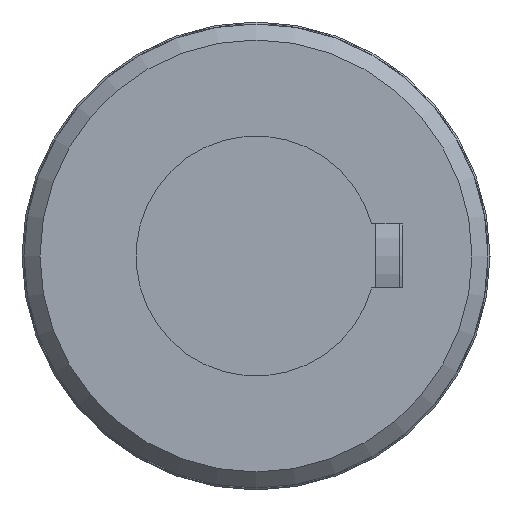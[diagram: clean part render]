
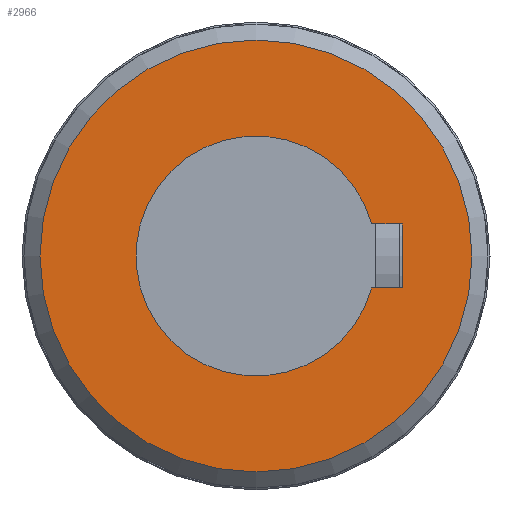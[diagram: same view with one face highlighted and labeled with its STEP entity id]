
A CAD part, left-side view. The second image highlights one B-rep face of the part: STEP entity #2966.
In plain terms, the highlighted planar face has unit normal (-1, 0, 0) as drawn and (0, -1, 0) by its records, which use the part's own axes.
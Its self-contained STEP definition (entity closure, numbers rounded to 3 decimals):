
#178=FACE_BOUND('',#650,.T.);
#277=PLANE('',#3269);
#436=FACE_OUTER_BOUND('',#649,.T.);
#649=EDGE_LOOP('',(#2625));
#650=EDGE_LOOP('',(#2626,#2627,#2628,#2629));
#856=LINE('',#5394,#1041);
#860=LINE('',#5417,#1045);
#862=LINE('',#5425,#1047);
#1041=VECTOR('',#3985,3.843);
#1045=VECTOR('',#3997,8.);
#1047=VECTOR('',#4001,3.843);
#1187=CIRCLE('',#3256,15.);
#1193=CIRCLE('',#3267,27.);
#1448=VERTEX_POINT('',#5391);
#1449=VERTEX_POINT('',#5393);
#1452=VERTEX_POINT('',#5403);
#1454=VERTEX_POINT('',#5415);
#1463=VERTEX_POINT('',#5504);
#1840=EDGE_CURVE('',#1449,#1448,#856,.T.);
#1844=EDGE_CURVE('',#1452,#1449,#1187,.T.);
#1848=EDGE_CURVE('',#1448,#1454,#860,.T.);
#1851=EDGE_CURVE('',#1454,#1452,#862,.T.);
#1861=EDGE_CURVE('',#1463,#1463,#1193,.T.);
#2625=ORIENTED_EDGE('',*,*,#1861,.F.);
#2626=ORIENTED_EDGE('',*,*,#1840,.T.);
#2627=ORIENTED_EDGE('',*,*,#1848,.T.);
#2628=ORIENTED_EDGE('',*,*,#1851,.T.);
#2629=ORIENTED_EDGE('',*,*,#1844,.T.);
#2966=ADVANCED_FACE('',(#436,#178),#277,.F.);
#3256=AXIS2_PLACEMENT_3D('',#5404,#3991,#3992);
#3267=AXIS2_PLACEMENT_3D('',#5505,#4018,#4019);
#3269=AXIS2_PLACEMENT_3D('',#5713,#4026,#4027);
#3985=DIRECTION('',(0.,0.,-1.));
#3991=DIRECTION('center_axis',(0.,1.,0.));
#3992=DIRECTION('ref_axis',(-0.267,0.,0.964));
#3997=DIRECTION('',(-1.,0.,0.));
#4001=DIRECTION('',(0.,0.,1.));
#4018=DIRECTION('center_axis',(0.,1.,0.));
#4019=DIRECTION('ref_axis',(1.,0.,0.));
#4026=DIRECTION('center_axis',(0.,1.,0.));
#4027=DIRECTION('ref_axis',(0.,0.,1.));
#5391=CARTESIAN_POINT('',(4.,-75.5,-18.3));
#5393=CARTESIAN_POINT('',(4.,-75.5,-14.457));
#5394=CARTESIAN_POINT('',(4.,-75.5,-7.228));
#5403=CARTESIAN_POINT('',(-4.,-75.5,-14.457));
#5404=CARTESIAN_POINT('Origin',(0.,-75.5,0.));
#5415=CARTESIAN_POINT('',(-4.,-75.5,-18.3));
#5417=CARTESIAN_POINT('',(2.,-75.5,-18.3));
#5425=CARTESIAN_POINT('',(-4.,-75.5,-9.15));
#5504=CARTESIAN_POINT('',(-27.,-75.5,0.));
#5505=CARTESIAN_POINT('Origin',(0.,-75.5,0.));
#5713=CARTESIAN_POINT('Origin',(0.,-75.5,0.));
